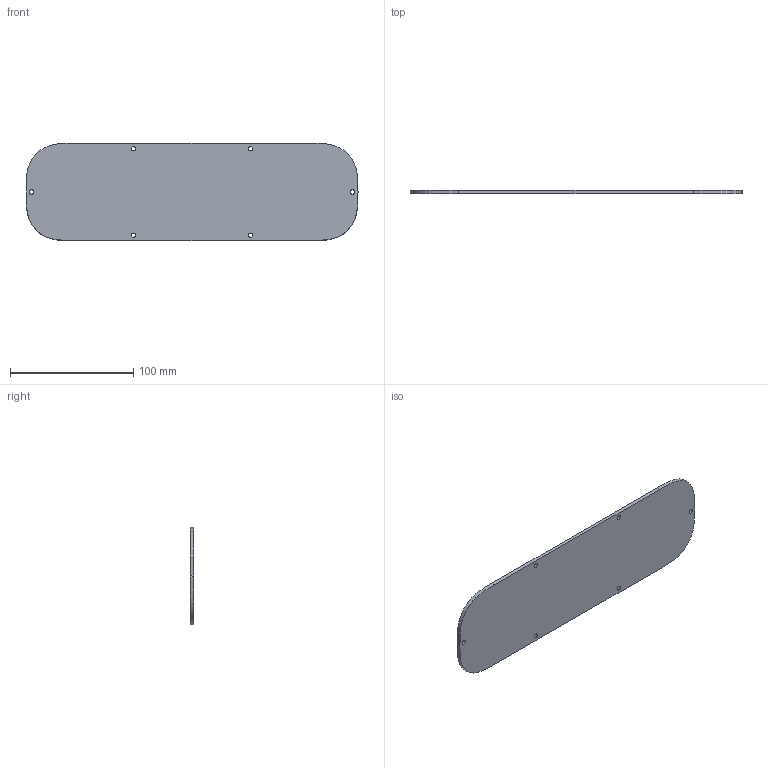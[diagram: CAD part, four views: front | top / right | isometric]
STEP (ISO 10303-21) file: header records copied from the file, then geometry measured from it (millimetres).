
FILE_DESCRIPTION(/* description */ (''),/* implementation_level */ '2;1');
FILE_NAME(/* name */ 'FRAME PANEL LATERAL.step',/* time_stamp */ '2024-02-28T16:42:11Z',/* author */ (''),/* organization */ (''),/* preprocessor_version */ 'ST-DEVELOPER v20',/* originating_system */ 'Autodesk Translation Framework v12.20.1.177',/* authorisation */ '');
FILE_SCHEMA (('AUTOMOTIVE_DESIGN { 1 0 10303 214 3 1 1 }'));
Length unit declared in the file: millimetre
Products named in the file (1): FRAME PANEL LATERAL
Bounding box: 269 x 3 x 79 mm (x, y, z)
Volume: 61313.4 mm3; surface area: 43003.5 mm2
Topology: 1 solids, 1 shells, 14 faces, 36 edges, 24 vertices
Faces by surface type: cylinder 6, bspline 4, plane 4
Full cylindrical faces by diameter (mm): 3.5 x6
Entity records: 760 total; most frequent: CARTESIAN_POINT 367, ORIENTED_EDGE 72, DIRECTION 62, EDGE_CURVE 36, EDGE_LOOP 26, VERTEX_POINT 24, AXIS2_PLACEMENT_3D 23, LINE 16
